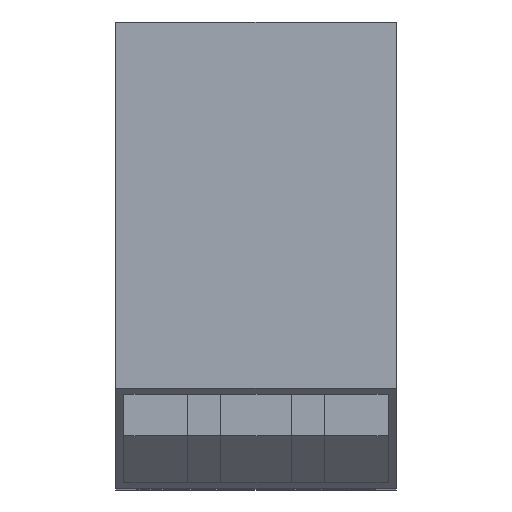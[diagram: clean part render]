
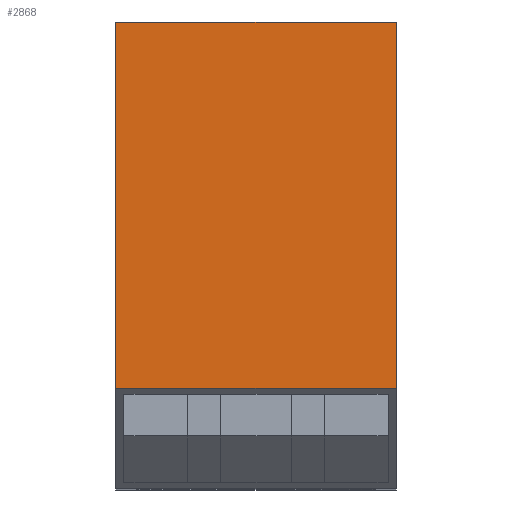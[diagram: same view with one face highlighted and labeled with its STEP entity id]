
A CAD part, top view. The second image highlights one B-rep face of the part: STEP entity #2868.
In plain terms, the highlighted planar face has unit normal (0, 0, 1).
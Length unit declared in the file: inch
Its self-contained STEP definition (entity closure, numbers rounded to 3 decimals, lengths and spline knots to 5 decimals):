
#176 = CARTESIAN_POINT ( 'NONE',  ( 4.2517, 3.43174, 0.3059 ) ) ;
#306 = CARTESIAN_POINT ( 'NONE',  ( 4.7267, 4.05174, 0.3059 ) ) ;
#443 = LINE ( 'NONE', #444, #445 ) ;
#444 = CARTESIAN_POINT ( 'NONE',  ( 4.2517, 4.05174, 0.3059 ) ) ;
#445 = VECTOR ( 'NONE', #446, 39.37008 ) ;
#446 = DIRECTION ( 'NONE',  ( -1., 0., 0. ) ) ;
#2700 = VERTEX_POINT ( 'NONE', #4816 ) ;
#2717 = EDGE_CURVE ( 'NONE', #2700, #4272, #4913, .T. ) ;
#2734 = ORIENTED_EDGE ( 'NONE', *, *, #3395, .T. ) ;
#2766 = ORIENTED_EDGE ( 'NONE', *, *, #2896, .T. ) ;
#2794 = VERTEX_POINT ( 'NONE', #306 ) ;
#2807 = EDGE_CURVE ( 'NONE', #2794, #2700, #443, .T. ) ;
#2813 = ORIENTED_EDGE ( 'NONE', *, *, #2717, .T. ) ;
#2851 = EDGE_LOOP ( 'NONE', ( #2813, #2766, #2734, #3358 ) ) ;
#2868 = ADVANCED_FACE ( 'NONE', ( #3494 ), #3495, .T. ) ;
#2896 = EDGE_CURVE ( 'NONE', #4272, #2967, #3637, .T. ) ;
#2967 = VERTEX_POINT ( 'NONE', #4239 ) ;
#3358 = ORIENTED_EDGE ( 'NONE', *, *, #2807, .T. ) ;
#3395 = EDGE_CURVE ( 'NONE', #2967, #2794, #4833, .T. ) ;
#3494 = FACE_OUTER_BOUND ( 'NONE', #2851, .T. ) ;
#3495 = PLANE ( 'NONE',  #3496 ) ;
#3496 = AXIS2_PLACEMENT_3D ( 'NONE', #3497, #3498, #3499 ) ;
#3497 = CARTESIAN_POINT ( 'NONE',  ( 4.2517, 3.43174, 0.3059 ) ) ;
#3498 = DIRECTION ( 'NONE',  ( 0., 0., 1. ) ) ;
#3499 = DIRECTION ( 'NONE',  ( 0., -1., 0. ) ) ;
#3637 = LINE ( 'NONE', #3638, #3639 ) ;
#3638 = CARTESIAN_POINT ( 'NONE',  ( 4.2517, 3.43174, 0.3059 ) ) ;
#3639 = VECTOR ( 'NONE', #3640, 39.37008 ) ;
#3640 = DIRECTION ( 'NONE',  ( 1., 0., 0. ) ) ;
#4239 = CARTESIAN_POINT ( 'NONE',  ( 4.7267, 3.43174, 0.3059 ) ) ;
#4272 = VERTEX_POINT ( 'NONE', #176 ) ;
#4816 = CARTESIAN_POINT ( 'NONE',  ( 4.2517, 4.05174, 0.3059 ) ) ;
#4833 = LINE ( 'NONE', #4834, #4835 ) ;
#4834 = CARTESIAN_POINT ( 'NONE',  ( 4.7267, 3.66808, 0.3059 ) ) ;
#4835 = VECTOR ( 'NONE', #4836, 39.37008 ) ;
#4836 = DIRECTION ( 'NONE',  ( 0., 1., 0. ) ) ;
#4913 = LINE ( 'NONE', #4914, #4915 ) ;
#4914 = CARTESIAN_POINT ( 'NONE',  ( 4.2517, 3.43174, 0.3059 ) ) ;
#4915 = VECTOR ( 'NONE', #4916, 39.37008 ) ;
#4916 = DIRECTION ( 'NONE',  ( 0., -1., 0. ) ) ;
